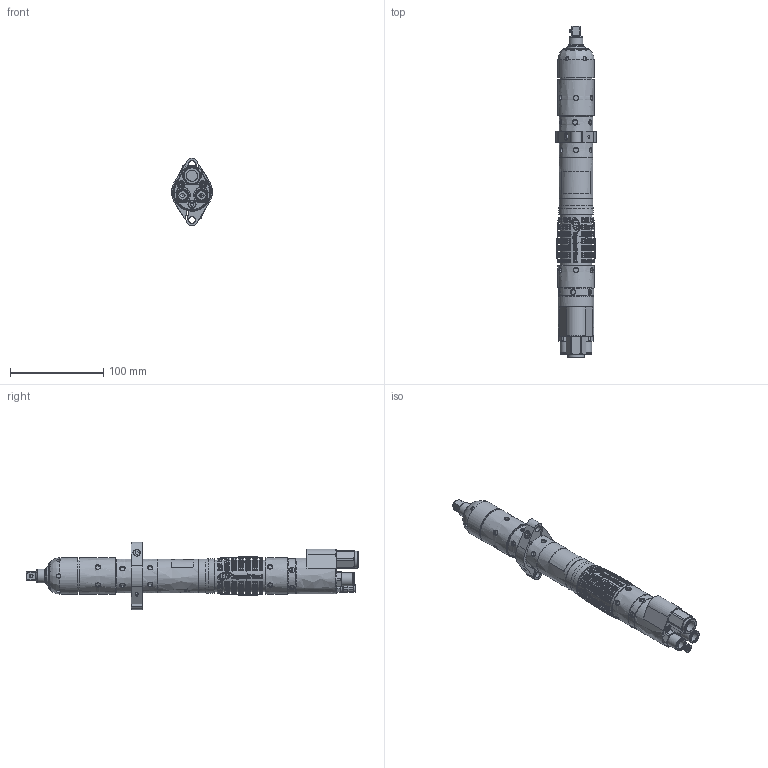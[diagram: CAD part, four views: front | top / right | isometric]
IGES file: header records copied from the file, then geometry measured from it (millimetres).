
Global section: file name: C:\Users\tbok\Documents\Tool Projects\Assembly Tools\QA4ASRS046BP20S06.igs; native system: NX V4.0; preprocessor: UGS NX IGES V4.0; date: 20151120.082543; units: millimetre
Bounding box: 43.7 x 356.85 x 72.7 mm (x, y, z)
Surface area: 64747.1 mm2 (no closed solid volume)
Topology: 0 solids, 0 shells, 1944 faces, 11547 edges, 11375 vertices
Faces by surface type: bspline 1944
